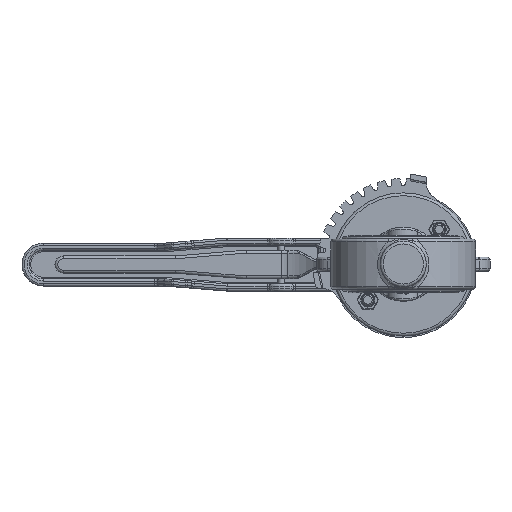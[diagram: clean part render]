
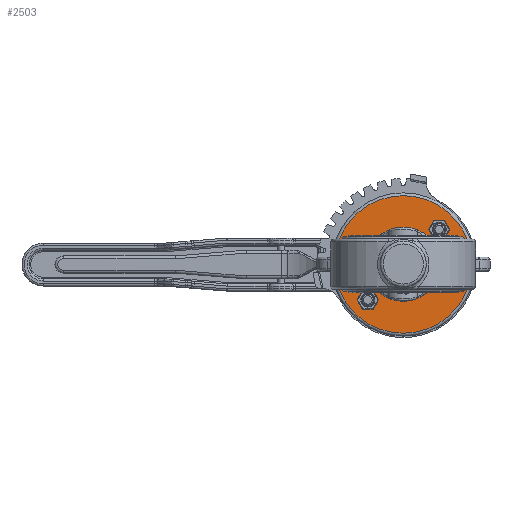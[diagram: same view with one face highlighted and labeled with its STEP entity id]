
A CAD part, top view. The second image highlights one B-rep face of the part: STEP entity #2503.
In plain terms, the highlighted planar face has unit normal (0, 0, 1).
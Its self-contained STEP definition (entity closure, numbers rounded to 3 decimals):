
#2503 = ADVANCED_FACE( '', ( #5217, #5218, #5219, #5220 ), #5221, .T. );
#5217 = FACE_OUTER_BOUND( '', #11984, .T. );
#5218 = FACE_BOUND( '', #11985, .T. );
#5219 = FACE_BOUND( '', #11986, .T. );
#5220 = FACE_BOUND( '', #11987, .T. );
#5221 = PLANE( '', #11988 );
#11984 = EDGE_LOOP( '', ( #20781 ) );
#11985 = EDGE_LOOP( '', ( #20782 ) );
#11986 = EDGE_LOOP( '', ( #20783 ) );
#11987 = EDGE_LOOP( '', ( #20784, #20785, #20786, #20787, #20788, #20789, #20790, #20791 ) );
#11988 = AXIS2_PLACEMENT_3D( '', #20792, #20793, #20794 );
#20781 = ORIENTED_EDGE( '', *, *, #24375, .T. );
#20782 = ORIENTED_EDGE( '', *, *, #22421, .T. );
#20783 = ORIENTED_EDGE( '', *, *, #22996, .T. );
#20784 = ORIENTED_EDGE( '', *, *, #23939, .F. );
#20785 = ORIENTED_EDGE( '', *, *, #22761, .T. );
#20786 = ORIENTED_EDGE( '', *, *, #22998, .F. );
#20787 = ORIENTED_EDGE( '', *, *, #24714, .T. );
#20788 = ORIENTED_EDGE( '', *, *, #23698, .F. );
#20789 = ORIENTED_EDGE( '', *, *, #23294, .T. );
#20790 = ORIENTED_EDGE( '', *, *, #24224, .F. );
#20791 = ORIENTED_EDGE( '', *, *, #24715, .T. );
#20792 = CARTESIAN_POINT( '', ( 0., 0., -131. ) );
#20793 = DIRECTION( '', ( 0., 0., 1. ) );
#20794 = DIRECTION( '', ( 1., 0., 0. ) );
#22421 = EDGE_CURVE( '', #25534, #25534, #25535, .F. );
#22761 = EDGE_CURVE( '', #26090, #26095, #26097, .F. );
#22996 = EDGE_CURVE( '', #26464, #26464, #26465, .F. );
#22998 = EDGE_CURVE( '', #26467, #26095, #26468, .T. );
#23294 = EDGE_CURVE( '', #26917, #26915, #26918, .F. );
#23698 = EDGE_CURVE( '', #26917, #27512, #27513, .T. );
#23939 = EDGE_CURVE( '', #26090, #27832, #27836, .T. );
#24224 = EDGE_CURVE( '', #28200, #26915, #28202, .T. );
#24375 = EDGE_CURVE( '', #28389, #28389, #28390, .T. );
#24714 = EDGE_CURVE( '', #26467, #27512, #28758, .F. );
#24715 = EDGE_CURVE( '', #28200, #27832, #28759, .F. );
#25534 = VERTEX_POINT( '', #30918 );
#25535 = CIRCLE( '', #30919, 4.5 );
#26090 = VERTEX_POINT( '', #33443 );
#26095 = VERTEX_POINT( '', #33448 );
#26097 = CIRCLE( '', #33450, 23. );
#26464 = VERTEX_POINT( '', #35097 );
#26465 = CIRCLE( '', #35098, 4.5 );
#26467 = VERTEX_POINT( '', #35100 );
#26468 = CIRCLE( '', #35101, 6. );
#26915 = VERTEX_POINT( '', #37093 );
#26917 = VERTEX_POINT( '', #37095 );
#26918 = CIRCLE( '', #37096, 23. );
#27512 = VERTEX_POINT( '', #40075 );
#27513 = CIRCLE( '', #40076, 6. );
#27832 = VERTEX_POINT( '', #41021 );
#27836 = CIRCLE( '', #41025, 6. );
#28200 = VERTEX_POINT( '', #42197 );
#28202 = CIRCLE( '', #42199, 6. );
#28389 = VERTEX_POINT( '', #43017 );
#28390 = CIRCLE( '', #43018, 48. );
#28758 = LINE( '', #44194, #44195 );
#28759 = LINE( '', #44196, #44197 );
#30918 = CARTESIAN_POINT( '', ( 29.589, 24.404, -131. ) );
#30919 = AXIS2_PLACEMENT_3D( '', #44967, #44968, #44969 );
#33443 = CARTESIAN_POINT( '', ( 14.821, 17.588, -131. ) );
#33448 = CARTESIAN_POINT( '', ( 14.821, -17.588, -131. ) );
#33450 = AXIS2_PLACEMENT_3D( '', #45358, #45359, #45360 );
#35097 = CARTESIAN_POINT( '', ( -20.249, -24.749, -131. ) );
#35098 = AXIS2_PLACEMENT_3D( '', #45655, #45656, #45657 );
#35100 = CARTESIAN_POINT( '', ( 10.954, -19., -131. ) );
#35101 = AXIS2_PLACEMENT_3D( '', #45658, #45659, #45660 );
#37093 = CARTESIAN_POINT( '', ( -14.821, 17.588, -131. ) );
#37095 = CARTESIAN_POINT( '', ( -14.821, -17.588, -131. ) );
#37096 = AXIS2_PLACEMENT_3D( '', #46018, #46019, #46020 );
#40075 = CARTESIAN_POINT( '', ( -10.954, -19., -131. ) );
#40076 = AXIS2_PLACEMENT_3D( '', #46517, #46518, #46519 );
#41021 = CARTESIAN_POINT( '', ( 10.954, 19., -131. ) );
#41025 = AXIS2_PLACEMENT_3D( '', #46798, #46799, #46800 );
#42197 = CARTESIAN_POINT( '', ( -10.954, 19., -131. ) );
#42199 = AXIS2_PLACEMENT_3D( '', #47100, #47101, #47102 );
#43017 = CARTESIAN_POINT( '', ( 48., 0., -131. ) );
#43018 = AXIS2_PLACEMENT_3D( '', #47243, #47244, #47245 );
#44194 = CARTESIAN_POINT( '', ( 0., -19., -131. ) );
#44195 = VECTOR( '', #47491, 1000. );
#44196 = CARTESIAN_POINT( '', ( 0., 19., -131. ) );
#44197 = VECTOR( '', #47492, 1000. );
#44967 = CARTESIAN_POINT( '', ( 25.089, 24.404, -131. ) );
#44968 = DIRECTION( '', ( 0., 0., 1. ) );
#44969 = DIRECTION( '', ( 1., 0., 0. ) );
#45358 = CARTESIAN_POINT( '', ( 0., 0., -131. ) );
#45359 = DIRECTION( '', ( 0., 0., 1. ) );
#45360 = DIRECTION( '', ( 1., 0., 0. ) );
#45655 = CARTESIAN_POINT( '', ( -24.749, -24.749, -131. ) );
#45656 = DIRECTION( '', ( 0., 0., 1. ) );
#45657 = DIRECTION( '', ( 1., 0., 0. ) );
#45658 = CARTESIAN_POINT( '', ( 10.954, -13., -131. ) );
#45659 = DIRECTION( '', ( 0., 0., 1. ) );
#45660 = DIRECTION( '', ( 1., 0., 0. ) );
#46018 = CARTESIAN_POINT( '', ( 0., 0., -131. ) );
#46019 = DIRECTION( '', ( 0., 0., 1. ) );
#46020 = DIRECTION( '', ( 1., 0., 0. ) );
#46517 = CARTESIAN_POINT( '', ( -10.954, -13., -131. ) );
#46518 = DIRECTION( '', ( 0., 0., 1. ) );
#46519 = DIRECTION( '', ( 1., 0., 0. ) );
#46798 = CARTESIAN_POINT( '', ( 10.954, 13., -131. ) );
#46799 = DIRECTION( '', ( 0., 0., 1. ) );
#46800 = DIRECTION( '', ( 1., 0., 0. ) );
#47100 = CARTESIAN_POINT( '', ( -10.954, 13., -131. ) );
#47101 = DIRECTION( '', ( 0., 0., 1. ) );
#47102 = DIRECTION( '', ( 1., 0., 0. ) );
#47243 = CARTESIAN_POINT( '', ( 0., 0., -131. ) );
#47244 = DIRECTION( '', ( 0., 0., 1. ) );
#47245 = DIRECTION( '', ( 1., 0., 0. ) );
#47491 = DIRECTION( '', ( 1., 0., 0. ) );
#47492 = DIRECTION( '', ( -1., 0., 0. ) );
